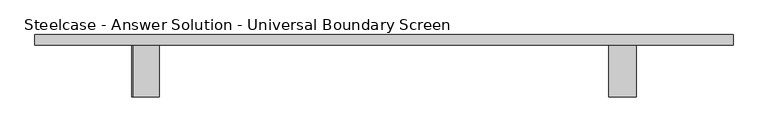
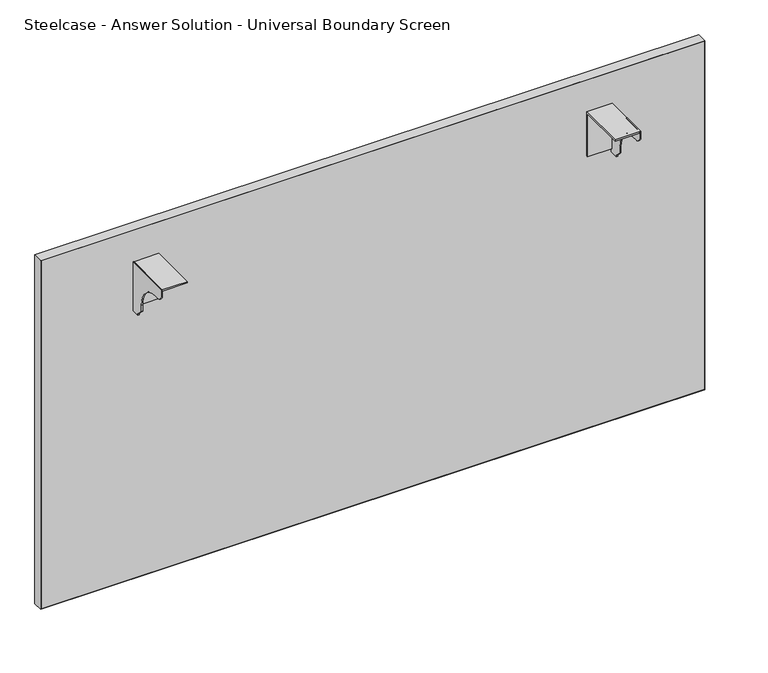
"""IFC4 building model written with IfcOpenShell, lengths in millimetres: furniture geometry, Steelcase - Answer Solution - Universal Boundary Screen : 30H x 54W."""

import ifcopenshell
import ifcopenshell.guid

model = None  # the IFC model being written
_history = None  # IfcOwnerHistory: only IFC2X3 demands one
_inside = {}  # id of a spatial element -> (the spatial element, [elements in it])
_under = {}  # id of a project, library or spatial element -> (it, [spatial elements below it])
_declared = {}  # id of a project -> (the project, [libraries it declares])
_typed = {}  # id of a type object -> (the type object, [elements of that type])
_made_of = {}  # id of a material, layer set ... -> (it, [elements and type objects made of it])


def new_model(schema):
    """Start an empty IFC model of exactly this schema.

    Asked for "IFC4X3", IfcOpenShell would pick the latest addendum, in which some entities
    have other attributes; the version numbers below select the first issue.
    IFC2X3 requires an IfcOwnerHistory on every rooted entity: one is made here for all.
    """
    global model, _history
    if schema == "IFC4X3":
        model = ifcopenshell.file(schema_version=(4, 3, 0, 0))
    else:
        model = ifcopenshell.file(schema=schema)
    _inside.clear()
    _under.clear()
    _declared.clear()
    _typed.clear()
    _made_of.clear()
    _history = None
    if model.schema == "IFC2X3":
        org = make("IfcOrganization", Name="unknown")
        user = make(
            "IfcPersonAndOrganization",
            ThePerson=make("IfcPerson", FamilyName="unknown"),
            TheOrganization=org,
        )
        app = make(
            "IfcApplication",
            ApplicationDeveloper=org,
            Version="unknown",
            ApplicationFullName="unknown",
            ApplicationIdentifier="unknown",
        )
        _history = make(
            "IfcOwnerHistory",
            OwningUser=user,
            OwningApplication=app,
            ChangeAction="ADDED",
            CreationDate=0,
        )
    return model


def make(cls, **values):
    """One entity of the class cls with the attributes given. An attribute that is None is left unset."""
    return model.create_entity(
        cls, **{name: value for name, value in values.items() if value is not None}
    )


def rooted(cls, **values):
    """An entity with a GlobalId (a new one), such as an element, a storey or a relation."""
    return make(cls, GlobalId=ifcopenshell.guid.new(), OwnerHistory=_history, **values)


def si_unit(unit_type, name, prefix=None):
    """IfcSIUnit, for example si_unit("LENGTHUNIT", "METRE", prefix="MILLI")."""
    return make("IfcSIUnit", UnitType=unit_type, Prefix=prefix, Name=name)


def assignment(units):
    """IfcUnitAssignment: the units of a project."""
    return None if units is None else make("IfcUnitAssignment", Units=units)


def point(xyz):
    """IfcCartesianPoint."""
    return None if xyz is None else make("IfcCartesianPoint", Coordinates=xyz)


def direction(xyz):
    """IfcDirection."""
    return None if xyz is None else make("IfcDirection", DirectionRatios=xyz)


def frame(location, z_axis=None, x_axis=None):
    """IfcAxis2Placement3D, a coordinate frame: its origin and axes. An axis left out is left unset."""
    return make(
        "IfcAxis2Placement3D",
        Location=point(location),
        Axis=direction(z_axis),
        RefDirection=direction(x_axis),
    )


def frame_2d(location, x_axis=None):
    """IfcAxis2Placement2D, a coordinate frame in the plane: its origin and x axis."""
    return make(
        "IfcAxis2Placement2D", Location=point(location), RefDirection=direction(x_axis)
    )


def origin():
    """The frame at (0, 0, 0) with its axes left unset."""
    return frame((0.0, 0.0, 0.0))


def place(relative_to, where):
    """IfcLocalPlacement: puts the frame where relative to a parent placement (None: the world)."""
    return make(
        "IfcLocalPlacement", PlacementRelTo=relative_to, RelativePlacement=where
    )


def context(
    kind, dimensions, precision=None, world=None, true_north=None, identifier=None
):
    """IfcGeometricRepresentationContext, for example the 3D "Model" context."""
    return make(
        "IfcGeometricRepresentationContext",
        ContextIdentifier=identifier,
        ContextType=kind,
        CoordinateSpaceDimension=dimensions,
        Precision=precision,
        WorldCoordinateSystem=world,
        TrueNorth=true_north,
    )


def project(units=None, contexts=None):
    """IfcProject with its units and contexts."""
    return rooted(
        "IfcProject",
        Name="project",
        RepresentationContexts=contexts,
        UnitsInContext=assignment(units),
    )


def spatial(cls, under=None, at=None, **own):
    """A site, building, storey or space (cls), placed at a placement, below another one or the project."""
    s = rooted(cls, ObjectPlacement=at, **own)
    if under is not None:
        _under.setdefault(under.id(), (under, []))[1].append(s)
    return s


def polyline(points):
    """IfcPolyline through the points."""
    return make("IfcPolyline", Points=[point(p) for p in points])


def circle_curve(where, radius):
    """IfcCircle in the frame where."""
    return make("IfcCircle", Position=where, Radius=radius)


def trimmed(basis, trim1, trim2, sense, master):
    """IfcTrimmedCurve: the piece of a basis curve between two trims."""
    return make(
        "IfcTrimmedCurve",
        BasisCurve=basis,
        Trim1=trim1,
        Trim2=trim2,
        SenseAgreement=sense,
        MasterRepresentation=master,
    )


def segment(curve, same_sense, transition):
    """IfcCompositeCurveSegment."""
    return make(
        "IfcCompositeCurveSegment",
        Transition=transition,
        SameSense=same_sense,
        ParentCurve=curve,
    )


def composite_curve(segments, self_intersect=None):
    """IfcCompositeCurve: segments joined end to end."""
    return make("IfcCompositeCurve", Segments=segments, SelfIntersect=self_intersect)


def outline(outer, holes=None, kind="AREA"):
    """IfcArbitraryClosedProfileDef: a profile drawn as a closed curve; with holes, ...WithVoids."""
    if holes is None:
        return make("IfcArbitraryClosedProfileDef", ProfileType=kind, OuterCurve=outer)
    return make(
        "IfcArbitraryProfileDefWithVoids",
        ProfileType=kind,
        OuterCurve=outer,
        InnerCurves=holes,
    )


def extrude(swept, where, along, depth):
    """IfcExtrudedAreaSolid: the profile swept, set in the frame where, extruded along a direction by depth."""
    return make(
        "IfcExtrudedAreaSolid",
        SweptArea=swept,
        Position=where,
        ExtrudedDirection=direction(along),
        Depth=depth,
    )


def shape(context_of_items, identifier, shape_type, items):
    """IfcShapeRepresentation: the items that make up one representation, for example the "Body"."""
    return make(
        "IfcShapeRepresentation",
        ContextOfItems=context_of_items,
        RepresentationIdentifier=identifier,
        RepresentationType=shape_type,
        Items=items,
    )


def source(mapping_origin, context_of_items, identifier, shape_type, items):
    """IfcRepresentationMap: a shape defined once, which mapped items show again and again."""
    return make(
        "IfcRepresentationMap",
        MappingOrigin=mapping_origin,
        MappedRepresentation=shape(context_of_items, identifier, shape_type, items),
    )


def transform(
    local_origin,
    x_axis=None,
    y_axis=None,
    z_axis=None,
    scale=None,
    scale2=None,
    scale3=None,
    uniform=True,
):
    """IfcCartesianTransformationOperator3D, or its non-uniform kind. x_axis, y_axis, z_axis: its Axis1, 2, 3."""
    if uniform:
        return make(
            "IfcCartesianTransformationOperator3D",
            Axis1=direction(x_axis),
            Axis2=direction(y_axis),
            LocalOrigin=point(local_origin),
            Scale=scale,
            Axis3=direction(z_axis),
        )
    return make(
        "IfcCartesianTransformationOperator3DnonUniform",
        Axis1=direction(x_axis),
        Axis2=direction(y_axis),
        LocalOrigin=point(local_origin),
        Scale=scale,
        Axis3=direction(z_axis),
        Scale2=scale2,
        Scale3=scale3,
    )


def mapped(mapping_source, mapping_target):
    """IfcMappedItem: shows the shape of a source again, moved by a transform."""
    return make(
        "IfcMappedItem", MappingSource=mapping_source, MappingTarget=mapping_target
    )


def made_of(thing, what):
    """Note that an element or type object is made of a material, layer set ...; save() writes the relation."""
    if what is not None:
        _made_of.setdefault(what.id(), (what, []))[1].append(thing)
    return thing


def element(
    cls,
    number,
    at=None,
    inside=None,
    cuts=None,
    type_object=None,
    material=None,
    context=None,
    identifier="Body",
    shape_type=None,
    held_by="IfcProductDefinitionShape",
    body=None,
    shapes=None,
    **own,
):
    """One element of the class cls, such as IfcWall. Its Tag is "e" and its number.

    at: its placement. inside: the storey or other place that contains it. cuts: it is an
    opening in that element (IfcRelVoidsElement). A single representation is given by context,
    identifier, shape_type and body (its items); several are given by shapes. held_by: the class
    of the entity that holds the representations. save() writes the other relations.
    """
    e = rooted(cls, Tag="e%d" % number, ObjectPlacement=at, **own)
    if body is not None:
        shapes = [shape(context, identifier, shape_type, body)]
    if shapes is not None:
        e.Representation = make(held_by, Representations=shapes)
    if inside is not None:
        _inside.setdefault(inside.id(), (inside, []))[1].append(e)
    if cuts is not None:
        rooted(
            "IfcRelVoidsElement", RelatingBuildingElement=cuts, RelatedOpeningElement=e
        )
    if type_object is not None:
        _typed.setdefault(type_object.id(), (type_object, []))[1].append(e)
    return made_of(e, material)


def aggregate(whole, parts):
    """IfcRelAggregates: a whole, such as a stair, and the parts it consists of."""
    return rooted("IfcRelAggregates", RelatingObject=whole, RelatedObjects=parts)


def save(model, path):
    """Write the relations noted so far, then the file.

    IfcRelAggregates (storeys below a building ...), IfcRelContainedInSpatialStructure (elements
    in a storey), IfcRelDefinesByType, IfcRelAssociatesMaterial and IfcRelDeclares: one each for
    every whole, place, type object, material and project.
    """
    for whole, parts in _under.values():
        aggregate(whole, parts)
    for where, things in _inside.values():
        rooted(
            "IfcRelContainedInSpatialStructure",
            RelatedElements=things,
            RelatingStructure=where,
        )
    for kind, things in _typed.values():
        rooted("IfcRelDefinesByType", RelatedObjects=things, RelatingType=kind)
    for what, things in _made_of.values():
        rooted("IfcRelAssociatesMaterial", RelatedObjects=things, RelatingMaterial=what)
    for by, libraries in _declared.values():
        rooted("IfcRelDeclares", RelatingContext=by, RelatedDefinitions=libraries)
    model.write(path)


def steelcase_answer_solution_universal_boundary_screen_0a82cdac(model_context):
    return source(origin(), model_context, "Body", "SweptSolid", [
        extrude(outline(polyline([(-103.1670434, 689.3558876), (-103.1670434, 692.1499758), (-1.5668826, 692.1499758), (-1.5668826, 595.5029317), (-4.1079736, 595.5029317), (-4.1079736, 689.3558876), (-103.1670434, 689.3558876)])), frame((972.0336711, 0.0, 0.0), z_axis=(1.0, 0.0, 0.0), x_axis=(0.0, 1.0, 0.0)), (0.0, 0.0, 1.0), 53.3444116),
        extrude(outline(composite_curve([segment(polyline([(-103.1670434, 679.2814802), (-103.1670434, 692.1499758), (-1.5668826, 692.1499758), (-1.5668826, 586.9634093), (-19.8232934, 586.9634093), (-19.8232934, 589.7574248), (-32.0458032, 601.9799346), (-32.0458032, 615.7814802)]), True, "CONTINUOUS"), segment(trimmed(circle_curve(frame_2d((-82.8458032, 615.7814802)), 50.8), [point((-32.0458032, 615.7814802))], [point((-82.8458032, 666.5814802))], True, "CARTESIAN"), True, "CONTINUOUS"), segment(polyline([(-82.8458032, 666.5814802), (-90.4670434, 666.5814802)]), True, "CONTINUOUS"), segment(trimmed(circle_curve(frame_2d((-90.4670434, 679.2814802)), 12.7), [point((-90.4670434, 666.5814802))], [point((-103.1670434, 679.2814802))], False, "CARTESIAN"), True, "CONTINUOUS")], self_intersect=False)), frame((1022.8328959, 0.0, 0.0), z_axis=(1.0, 0.0, 0.0), x_axis=(0.0, 1.0, 0.0)), (0.0, 0.0, 1.0), 2.5451868),
        extrude(outline(polyline([(-103.1670434, 689.3558876), (-103.1670434, 692.1499758), (-1.5668826, 692.1499758), (-1.5668826, 595.5029317), (-4.1079736, 595.5029317), (-4.1079736, 689.3558876), (-103.1670434, 689.3558876)])), frame((37.3232694, 0.0, 0.0), z_axis=(1.0, 0.0, 0.0), x_axis=(0.0, 1.0, 0.0)), (0.0, 0.0, 1.0), 50.7992249),
        extrude(outline(composite_curve([segment(polyline([(-103.1670434, 679.2814802), (-103.1670434, 692.1499758), (-1.5668826, 692.1499758), (-1.5668826, 586.9634093), (-19.8232934, 586.9634093), (-19.8232934, 589.7574248), (-32.0458032, 601.9799346), (-32.0458032, 615.7814802)]), True, "CONTINUOUS"), segment(trimmed(circle_curve(frame_2d((-82.8458032, 615.7814802)), 50.8), [point((-32.0458032, 615.7814802))], [point((-82.8458032, 666.5814802))], True, "CARTESIAN"), True, "CONTINUOUS"), segment(polyline([(-82.8458032, 666.5814802), (-90.4670434, 666.5814802)]), True, "CONTINUOUS"), segment(trimmed(circle_curve(frame_2d((-90.4670434, 679.2814802)), 12.7), [point((-90.4670434, 666.5814802))], [point((-103.1670434, 679.2814802))], False, "CARTESIAN"), True, "CONTINUOUS")], self_intersect=False)), frame((34.7780827, 0.0, 0.0), z_axis=(1.0, 0.0, 0.0), x_axis=(0.0, 1.0, 0.0)), (0.0, 0.0, 1.0), 2.5451868),
        extrude(outline(polyline([(-154.7293422, 18.9055112), (1214.8855076, 18.9055112), (1214.8855076, -1.5668826), (-154.7293422, -1.5668826), (-154.7293422, 18.9055112)])), frame((0.0, 0.0, 1.016), z_axis=(0.0, 0.0, 1.0), x_axis=(1.0, 0.0, 0.0)), (0.0, 0.0, 1.0), 759.9914249),
        extrude(outline(polyline([(762.0, 1215.8780827), (762.0, -155.7219173), (0.0, -155.7219173), (0.0, 1215.8780827), (762.0, 1215.8780827)]), holes=[polyline([(761.0074249, 1214.8855076), (1.016, 1214.8855076), (1.016, -154.7293422), (761.0074249, -154.7293422), (761.0074249, 1214.8855076)])]), frame((0.0, -1.5668826, 0.0), z_axis=(0.0, 1.0, 0.0), x_axis=(0.0, 0.0, 1.0)), (0.0, 0.0, 1.0), 20.4723938),
    ])


if __name__ == "__main__":
    model = new_model("IFC4")
    model_context = context("Model", 3, world=origin())
    ifc_project = project(units=[si_unit("LENGTHUNIT", "METRE", prefix="MILLI")], contexts=[model_context])
    site = spatial("IfcSite", under=ifc_project)
    building = spatial("IfcBuilding", under=site)
    placement = place(None, origin())
    steelcase_answer_solution_universal_boundary_screen_shape = steelcase_answer_solution_universal_boundary_screen_0a82cdac(model_context)
    element("IfcFurniture", 1, ObjectType="Steelcase - Answer Solution - Universal Boundary Screen : 30H x 54W", at=placement, inside=building, context=model_context, shape_type="MappedRepresentation", body=[
        mapped(steelcase_answer_solution_universal_boundary_screen_shape, transform((0.0, 0.0, 0.0), x_axis=(1.0, 0.0, 0.0), y_axis=(0.0, 1.0, 0.0), z_axis=(0.0, 0.0, 1.0))),
    ])
    save(model, "model.ifc")
